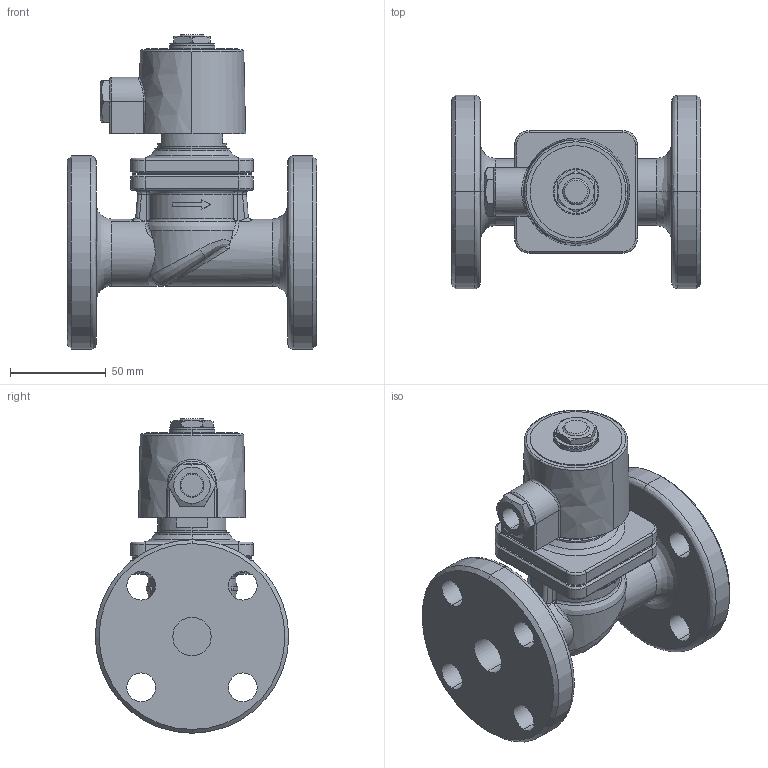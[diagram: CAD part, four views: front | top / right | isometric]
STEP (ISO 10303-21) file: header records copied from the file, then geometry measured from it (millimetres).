
FILE_DESCRIPTION( (''), '2;1');
FILE_NAME ('PC1027.7416.DP-100F　20A_29098.stp','2025-07-28T18:14:28',(''),(''),'spGate 19.8.4 (****-****-****-****)','','');
FILE_SCHEMA (('AUTOMOTIVE_DESIGN'));
Length unit declared in the file: millimetre
Products named in the file (6): Assembly; DP-100F 弁箱 20A; DP-100 ふた 20A; パイプP 10-25A; ACコイル10A; ACコイル10A部品プレート
Assembly tree (5 placements, depth 2):
  Assembly
    DP-100F 弁箱 20A
    DP-100 ふた 20A
    パイプP 10-25A
    ACコイル10A
    ACコイル10A部品プレート
Bounding box: 130 x 101 x 164.2 mm (x, y, z)
Volume: 564318.1 mm3; surface area: 102610.5 mm2
Topology: 5 solids, 5 shells, 415 faces, 972 edges, 563 vertices
Faces by surface type: bspline 163, cylinder 128, plane 104, sphere 20
Entity records: 23971 total; most frequent: CARTESIAN_POINT 7793, ORIENTED_EDGE 1886, DIRECTION 1538, COLOUR_RGB 1363, PRESENTATION_STYLE_ASSIGNMENT 1363, STYLED_ITEM 1363, EDGE_CURVE 943, DRAUGHTING_PRE_DEFINED_CURVE_FONT 943
